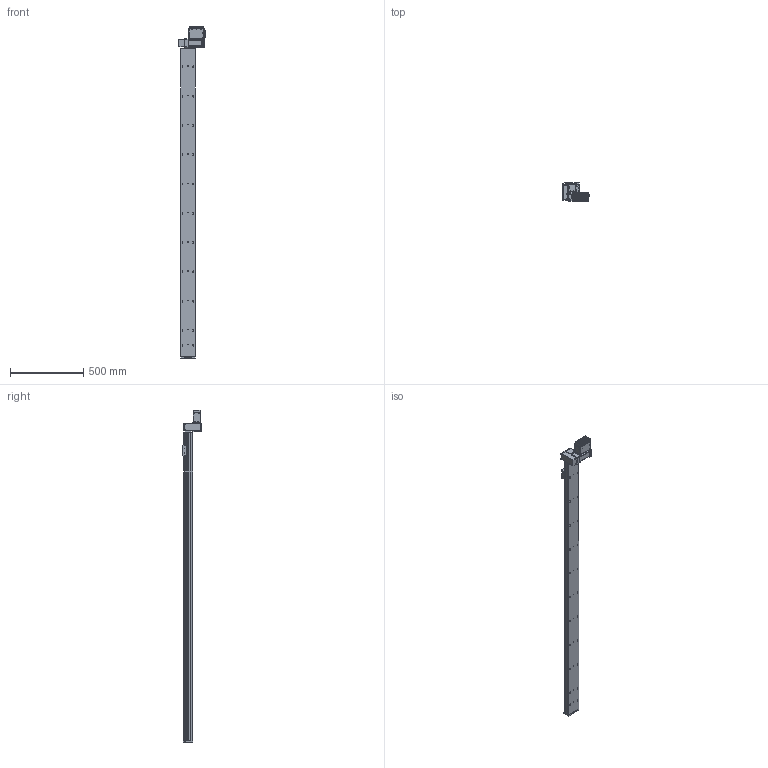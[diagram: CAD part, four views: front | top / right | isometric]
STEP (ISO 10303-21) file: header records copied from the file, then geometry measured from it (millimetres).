
FILE_DESCRIPTION (( 'STEP AP203' ), '1' );
FILE_NAME ('S10 TBN RH S2100.STEP', '2012-06-14T08:59:20', ( 'Conseil Régional Haute-Normandie' ), ( 'Conseil Régional Haute-Normandie' ), 'SwSTEP 2.0', 'SolidWorks 2010', '' );
FILE_SCHEMA (( 'CONFIG_CONTROL_DESIGN' ));
Length unit declared in the file: millimetre
Products named in the file (30): S10 TBN RH S2100; cache t皻e_Default; cache t皻e axe_Default; plaque de bout s10_Default; BU41 Carte Alimentation P05_3; Colonnette_3; Connecteur rond D12 4cts_5; Connecteur rond D10 3cts_5; Sub D 9cts 90_X2_00B_X0__3; Cvis M5 L30_Default; Vis TF 3 torkx_1_1; vis M5 L12_Default; axe 2100; embout; palette tbn; Plaque racord_Default; renvoi LH_Default; Assem1_7; T_X2_00F4_X0_le contre le moteur_5; BU45 Carte d''axe A11_5; Moteur 60BLDC90A_3; Couvercle_3; T_X2_00F4_X0_le fond_3; Radiateur profil_X2_00E9_X0_ 100x25_3; Colonnette ronde_3; T_X2_00F4_X0_le Arri_X2_00E8_X0_re_5; T_X2_00F4_X0_le lat_X2_00E9_X0_rale_5; Vis M5 L16-2_Default_1; vis M5 L5_Default; Vis TF 3 torkx
Assembly tree (69 placements, depth 3):
  S10 TBN RH S2100
    cache t皻e axe_Default
    Vis TF 3 torkx  x7
    Vis M5 L16-2_Default_1  x4
    plaque de bout s10_Default
    embout
    cache t皻e_Default  x2
    vis M5 L12_Default  x4
    renvoi LH_Default
    palette tbn
    vis M5 L5_Default  x4
    Cvis M5 L30_Default  x2
    Assem1_7
      T_X2_00F4_X0_le lat_X2_00E9_X0_rale_5  x2
      Vis TF 3 torkx_1_1  x21
      Connecteur rond D10 3cts_5  x2
      BU41 Carte Alimentation P05_3
      Connecteur rond D12 4cts_5
      Moteur 60BLDC90A_3
      Colonnette_3  x2
      T_X2_00F4_X0_le contre le moteur_5
      Sub D 9cts 90_X2_00B_X0__3
      Radiateur profil_X2_00E9_X0_ 100x25_3
      Colonnette ronde_3
      BU45 Carte d''axe A11_5
      Couvercle_3
      T_X2_00F4_X0_le fond_3
      T_X2_00F4_X0_le Arri_X2_00E8_X0_re_5
    Plaque racord_Default
    axe 2100
Bounding box: 189.8 x 124.75 x 2266.5 mm (x, y, z)
Volume: 11688893.1 mm3; surface area: 1292754.5 mm2
Topology: 68 solids, 68 shells, 2547 faces, 6316 edges, 4086 vertices
Faces by surface type: plane 1219, cylinder 1097, cone 188, bspline 40, torus 3
Entity records: 50252 total; most frequent: CARTESIAN_POINT 8994, DIRECTION 8131, ORIENTED_EDGE 7352, EDGE_CURVE 3676, AXIS2_PLACEMENT_3D 3034, VERTEX_POINT 2402, LINE 2063, VECTOR 2063
